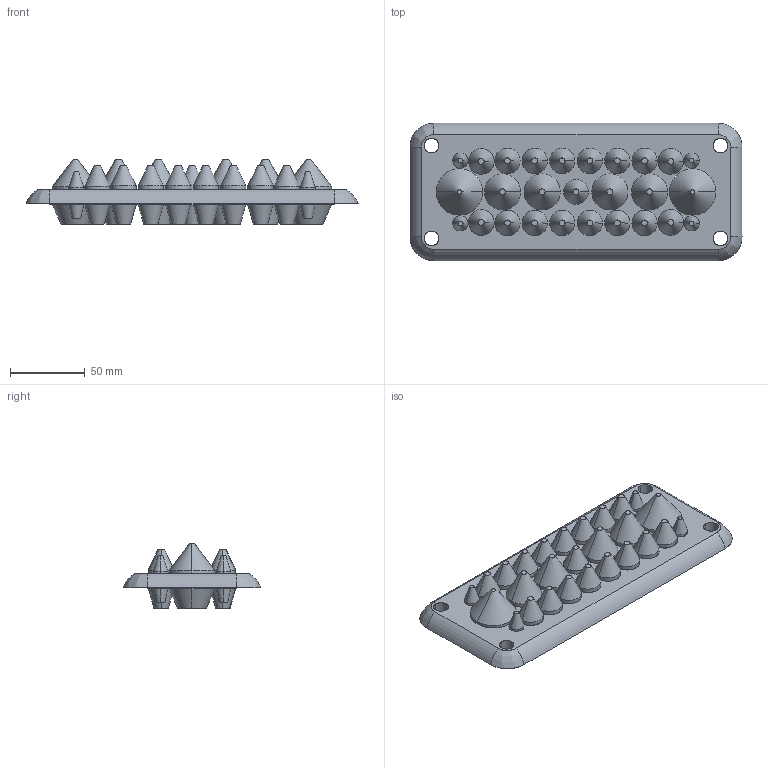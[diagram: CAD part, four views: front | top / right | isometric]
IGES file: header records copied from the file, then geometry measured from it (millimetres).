
Start section: SolidWorks IGES file using analytic representation for surfaces
Global section: file name: C:\Solidworks\omat tuotteet\Space charge models\Multigate\ip66 ip67\IGES\103583.IGS; native system: SolidWorks 2012; preprocessor: SolidWorks 2012; author: joni.lehtonen; date: 121204.114556; units: millimetre
Bounding box: 221.75 x 91.75 x 43 mm (x, y, z)
Surface area: 82510.3 mm2 (no closed solid volume)
Topology: 0 solids, 0 shells, 355 faces, 6148 edges, 6094 vertices
Faces by surface type: revolution 284, bspline 71
